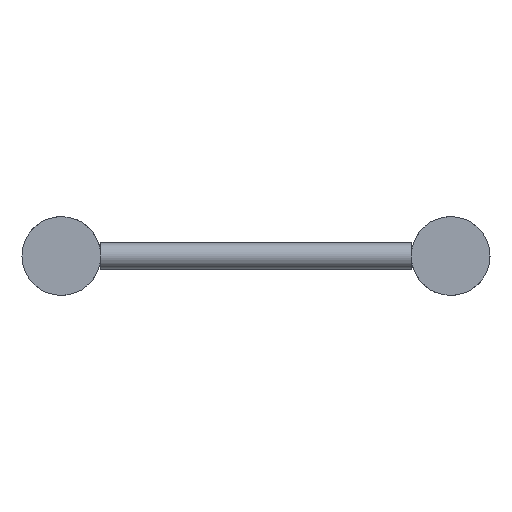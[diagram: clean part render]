
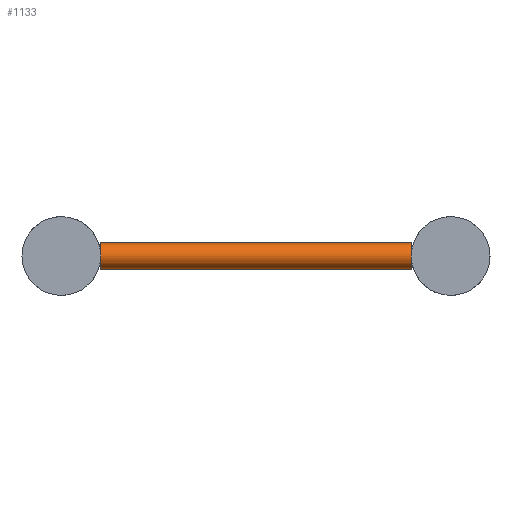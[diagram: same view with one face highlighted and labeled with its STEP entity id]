
A CAD part, left-side view. The second image highlights one B-rep face of the part: STEP entity #1133.
In plain terms, the highlighted cylindrical face has radius 8 mm (diameter 16 mm), a full revolution.
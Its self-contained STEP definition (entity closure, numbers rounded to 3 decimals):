
#199=FACE_BOUND('',#381,.T.);
#292=FACE_OUTER_BOUND('',#380,.T.);
#380=EDGE_LOOP('',(#849,#850));
#381=EDGE_LOOP('',(#851,#852));
#469=CIRCLE('',#1246,8.);
#470=CIRCLE('',#1248,8.);
#471=CIRCLE('',#1250,8.);
#472=CIRCLE('',#1252,8.);
#553=VERTEX_POINT('',#1913);
#554=VERTEX_POINT('',#1914);
#555=VERTEX_POINT('',#1918);
#556=VERTEX_POINT('',#1919);
#680=EDGE_CURVE('',#554,#553,#469,.T.);
#682=EDGE_CURVE('',#556,#555,#470,.T.);
#683=EDGE_CURVE('',#553,#554,#471,.T.);
#684=EDGE_CURVE('',#555,#556,#472,.T.);
#849=ORIENTED_EDGE('',*,*,#680,.T.);
#850=ORIENTED_EDGE('',*,*,#683,.T.);
#851=ORIENTED_EDGE('',*,*,#682,.T.);
#852=ORIENTED_EDGE('',*,*,#684,.T.);
#997=CYLINDRICAL_SURFACE('',#1251,8.);
#1133=ADVANCED_FACE('',(#292,#199),#997,.T.);
#1246=AXIS2_PLACEMENT_3D('',#1916,#1488,#1489);
#1248=AXIS2_PLACEMENT_3D('',#1921,#1493,#1494);
#1250=AXIS2_PLACEMENT_3D('',#1923,#1497,#1498);
#1251=AXIS2_PLACEMENT_3D('',#1924,#1499,#1500);
#1252=AXIS2_PLACEMENT_3D('',#1925,#1501,#1502);
#1488=DIRECTION('center_axis',(0.,1.,0.));
#1489=DIRECTION('ref_axis',(-1.,0.,0.));
#1493=DIRECTION('center_axis',(0.,-1.,0.));
#1494=DIRECTION('ref_axis',(-1.,0.,0.));
#1497=DIRECTION('center_axis',(0.,1.,0.));
#1498=DIRECTION('ref_axis',(-1.,0.,0.));
#1499=DIRECTION('center_axis',(0.,1.,0.));
#1500=DIRECTION('ref_axis',(-1.,0.,0.));
#1501=DIRECTION('center_axis',(0.,-1.,0.));
#1502=DIRECTION('ref_axis',(-1.,0.,0.));
#1913=CARTESIAN_POINT('',(52.,24.15,0.));
#1914=CARTESIAN_POINT('',(68.,24.15,0.));
#1916=CARTESIAN_POINT('Origin',(60.,24.15,0.));
#1918=CARTESIAN_POINT('',(52.,214.85,0.));
#1919=CARTESIAN_POINT('',(68.,214.85,0.));
#1921=CARTESIAN_POINT('Origin',(60.,214.85,0.));
#1923=CARTESIAN_POINT('Origin',(60.,24.15,0.));
#1924=CARTESIAN_POINT('Origin',(60.,119.5,0.));
#1925=CARTESIAN_POINT('Origin',(60.,214.85,0.));
